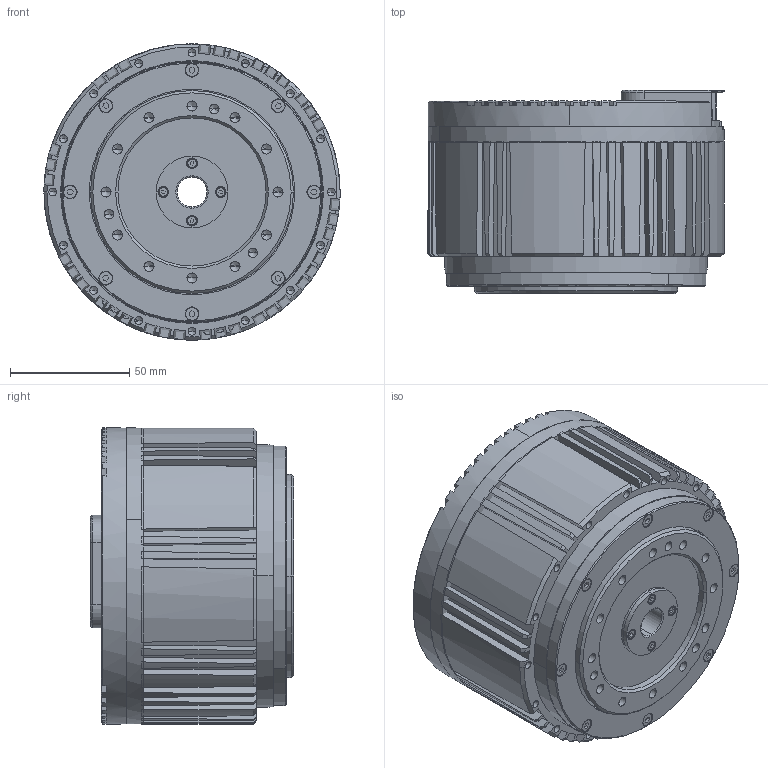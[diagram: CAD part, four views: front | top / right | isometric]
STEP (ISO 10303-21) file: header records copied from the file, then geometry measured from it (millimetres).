
FILE_DESCRIPTION (( 'STEP AP203' ), '1' );
FILE_NAME ('RMD-X12-P20-320.STEP', '2026-04-29T07:42:59', ( '' ), ( '' ), 'SwSTEP 2.0', 'SolidWorks 2020', '' );
FILE_SCHEMA (( 'CONFIG_CONTROL_DESIGN' ));
Length unit declared in the file: millimetre
Products named in the file (9): XMT.110.007-输出法兰盖板-B_Default<按加工>; 8MT.013.042-傷裔-C_Default<偌樓馱>; XMT.112.006-媼晤粣-B_Default<偌樓馱>; 囀鞠褒麥芛蹟佪M2X4; 8MT.013.035-驱动后盖-B_Default<按加工>; X12-儂釱-禱矗芞; RMD-X12-P20-320; XMT.109.007-怀堤楊擘 D_Default<偌樓馱>; 囀鞠褒麥芛蹟佪M3X10
Assembly tree (18 placements, depth 2):
  RMD-X12-P20-320
    8MT.013.035-驱动后盖-B_Default<按加工>
    8MT.013.042-傷裔-C_Default<偌樓馱>
    XMT.109.007-怀堤楊擘 D_Default<偌樓馱>
    XMT.110.007-输出法兰盖板-B_Default<按加工>
    XMT.112.006-媼晤粣-B_Default<偌樓馱>
    囀鞠褒麥芛蹟佪M3X10  x8
    囀鞠褒麥芛蹟佪M2X4  x4
    X12-儂釱-禱矗芞
Bounding box: 124 x 85 x 124 mm (x, y, z)
Volume: 278404 mm3; surface area: 194285.3 mm2
Topology: 18 solids, 18 shells, 1833 faces, 4893 edges, 3086 vertices
Faces by surface type: plane 718, cylinder 589, cone 463, bspline 33, torus 30
Entity records: 54825 total; most frequent: CARTESIAN_POINT 11123, DIRECTION 9099, ORIENTED_EDGE 8866, EDGE_CURVE 4433, AXIS2_PLACEMENT_3D 3429, VERTEX_POINT 2886, LINE 2241, VECTOR 2241
